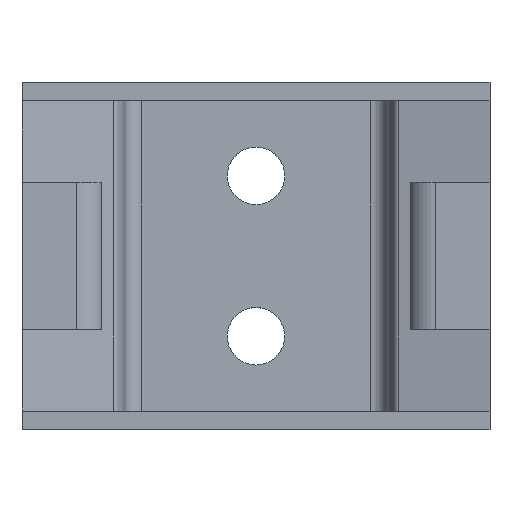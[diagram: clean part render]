
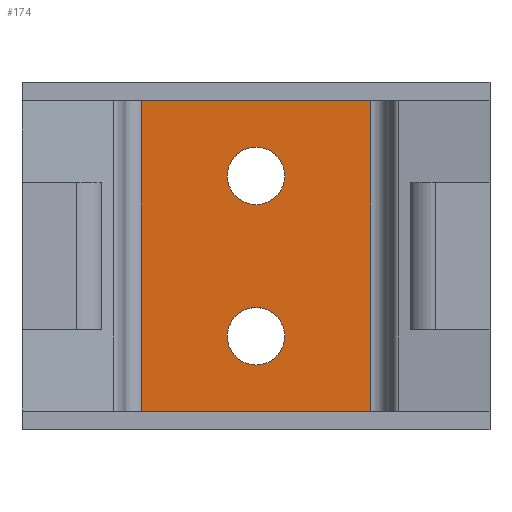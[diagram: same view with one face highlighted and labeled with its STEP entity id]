
A CAD part, top view. The second image highlights one B-rep face of the part: STEP entity #174.
In plain terms, the highlighted planar face has unit normal (0, 0, 1).
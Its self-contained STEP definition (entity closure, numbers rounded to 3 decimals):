
#174 = ADVANCED_FACE( '', ( #366, #367, #368 ), #369, .F. );
#366 = FACE_BOUND( '', #577, .T. );
#367 = FACE_BOUND( '', #578, .T. );
#368 = FACE_OUTER_BOUND( '', #579, .T. );
#369 = PLANE( '', #580 );
#577 = EDGE_LOOP( '', ( #1065 ) );
#578 = EDGE_LOOP( '', ( #1066 ) );
#579 = EDGE_LOOP( '', ( #1067, #1068, #1069, #1070 ) );
#580 = AXIS2_PLACEMENT_3D( '', #1071, #1072, #1073 );
#1065 = ORIENTED_EDGE( '', *, *, #1486, .F. );
#1066 = ORIENTED_EDGE( '', *, *, #1411, .F. );
#1067 = ORIENTED_EDGE( '', *, *, #1336, .F. );
#1068 = ORIENTED_EDGE( '', *, *, #1473, .F. );
#1069 = ORIENTED_EDGE( '', *, *, #1462, .F. );
#1070 = ORIENTED_EDGE( '', *, *, #1487, .T. );
#1071 = CARTESIAN_POINT( '', ( -8.6, -13., 2.2 ) );
#1072 = DIRECTION( '', ( 0., 0., -1. ) );
#1073 = DIRECTION( '', ( -1., 0., 0. ) );
#1336 = EDGE_CURVE( '', #1627, #1629, #1630, .T. );
#1411 = EDGE_CURVE( '', #1747, #1747, #1748, .T. );
#1462 = EDGE_CURVE( '', #1815, #1817, #1818, .T. );
#1473 = EDGE_CURVE( '', #1817, #1627, #1832, .T. );
#1486 = EDGE_CURVE( '', #1847, #1847, #1848, .T. );
#1487 = EDGE_CURVE( '', #1815, #1629, #1849, .T. );
#1627 = VERTEX_POINT( '', #2025 );
#1629 = VERTEX_POINT( '', #2027 );
#1630 = LINE( '', #2028, #2029 );
#1747 = VERTEX_POINT( '', #2195 );
#1748 = CIRCLE( '', #2196, 2.15 );
#1815 = VERTEX_POINT( '', #2287 );
#1817 = VERTEX_POINT( '', #2289 );
#1818 = LINE( '', #2290, #2291 );
#1832 = LINE( '', #2309, #2310 );
#1847 = VERTEX_POINT( '', #2331 );
#1848 = CIRCLE( '', #2332, 2.15 );
#1849 = LINE( '', #2333, #2334 );
#2025 = CARTESIAN_POINT( '', ( -8.6, 11.6, 2.2 ) );
#2027 = CARTESIAN_POINT( '', ( 8.6, 11.6, 2.2 ) );
#2028 = CARTESIAN_POINT( '', ( -8.6, 11.6, 2.2 ) );
#2029 = VECTOR( '', #2474, 1000. );
#2195 = CARTESIAN_POINT( '', ( 0., 3.85, 2.2 ) );
#2196 = AXIS2_PLACEMENT_3D( '', #2557, #2558, #2559 );
#2287 = CARTESIAN_POINT( '', ( 8.6, -11.6, 2.2 ) );
#2289 = CARTESIAN_POINT( '', ( -8.6, -11.6, 2.2 ) );
#2290 = CARTESIAN_POINT( '', ( -8.6, -11.6, 2.2 ) );
#2291 = VECTOR( '', #2620, 1000. );
#2309 = CARTESIAN_POINT( '', ( -8.6, -13., 2.2 ) );
#2310 = VECTOR( '', #2637, 1000. );
#2331 = CARTESIAN_POINT( '', ( 0., -8.15, 2.2 ) );
#2332 = AXIS2_PLACEMENT_3D( '', #2647, #2648, #2649 );
#2333 = CARTESIAN_POINT( '', ( 8.6, -13., 2.2 ) );
#2334 = VECTOR( '', #2650, 1000. );
#2474 = DIRECTION( '', ( 1., 0., 0. ) );
#2557 = CARTESIAN_POINT( '', ( 0., 6., 2.2 ) );
#2558 = DIRECTION( '', ( 0., 0., 1. ) );
#2559 = DIRECTION( '', ( 0., -1., 0. ) );
#2620 = DIRECTION( '', ( -1., 0., 0. ) );
#2637 = DIRECTION( '', ( 0., 1., 0. ) );
#2647 = CARTESIAN_POINT( '', ( 0., -6., 2.2 ) );
#2648 = DIRECTION( '', ( 0., 0., 1. ) );
#2649 = DIRECTION( '', ( 0., -1., 0. ) );
#2650 = DIRECTION( '', ( 0., 1., 0. ) );
